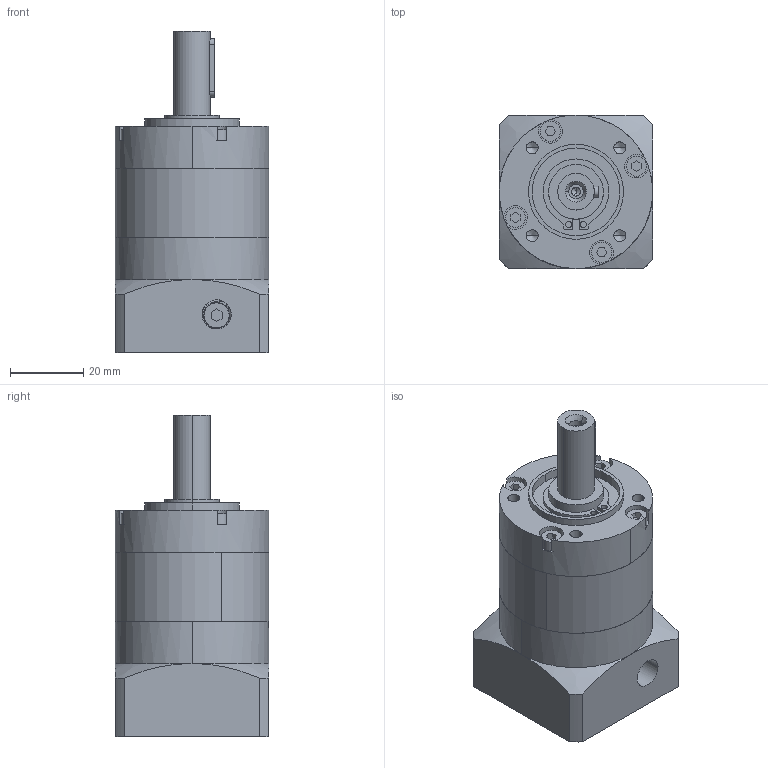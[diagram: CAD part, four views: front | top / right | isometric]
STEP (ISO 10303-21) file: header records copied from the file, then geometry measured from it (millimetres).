
FILE_DESCRIPTION (( 'STEP AP214' ), '1' );
FILE_NAME ('PRL40-L1.STEP', '2020-09-14T01:47:23', ( '微软用户' ), ( '微软中国' ), 'SwSTEP 2.0', 'SolidWorks 2014', '' );
FILE_SCHEMA (( 'AUTOMOTIVE_DESIGN' ));
Length unit declared in the file: millimetre
Products named in the file (13): 邧埴瑩 3x3x16; PLE40 帣釱; PLE40 內齿圈; PLE40 奻屳唳; GB／T276-94深沟球轴承61902-2RZ; 囀鞠褒蹟佪-M4℅12; PRL40-L1
Assembly tree (6 placements, depth 2):
  GB／T276-94深沟球轴承61902-2RZ
  囀鞠褒蹟佪-M4℅12
  邧埴瑩 3x3x16
  PLE40 帣釱
  PLE40 內齿圈
Bounding box: 42 x 42 x 88 mm (x, y, z)
Volume: 80560.6 mm3; surface area: 31118.8 mm2
Topology: 10 solids, 10 shells, 419 faces, 1181 edges, 757 vertices
Faces by surface type: cylinder 142, plane 136, bspline 119, cone 22
Entity records: 19897 total; most frequent: CARTESIAN_POINT 8598, ORIENTED_EDGE 2246, DIRECTION 1813, EDGE_CURVE 1123, VERTEX_POINT 757, AXIS2_PLACEMENT_3D 745, EDGE_LOOP 502, CIRCLE 435
